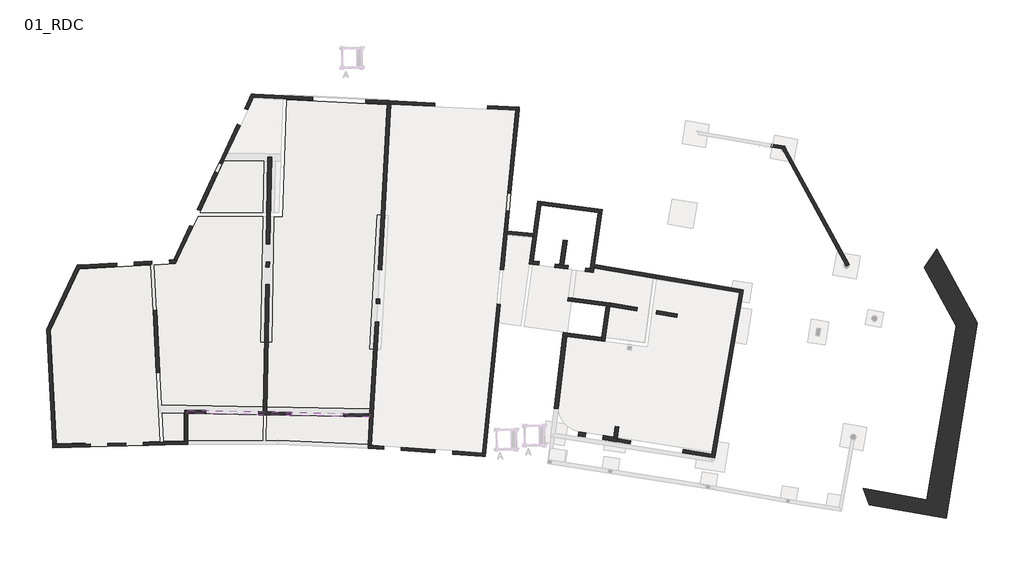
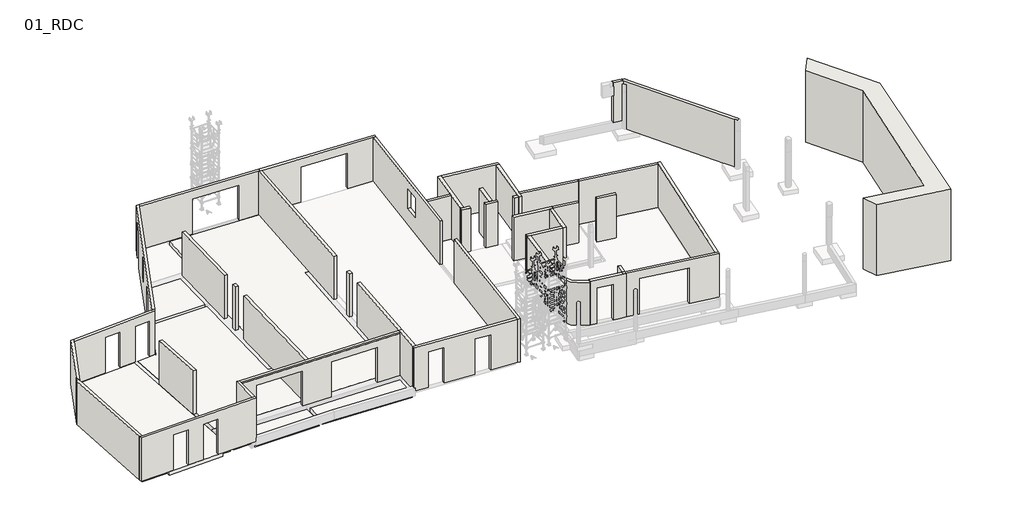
# One storey, part 1 of 5: 46 walls, 7 slabs.
"""IFC4 building model written with IfcOpenShell, lengths in millimetres."""

from ifc_helpers import new_model, si_unit, point, frame, frame_2d, origin, place, context, project, spatial, polyline, circle_curve, trimmed, segment, composite_curve, outline, extrude, faceted_brep, transform, mapped, element, save
from components import wall_40f25151

model = new_model("IFC4")

# Units and contexts
model_context = context("Model", 3, world=origin())
ifc_project = project(units=[si_unit("LENGTHUNIT", "METRE", prefix="MILLI")], contexts=[model_context])

# Site, building, storey
site = spatial("IfcSite", under=ifc_project)
building = spatial("IfcBuilding", under=site)
storey = spatial("IfcBuildingStorey", under=building, Name="01_RDC", Elevation=21740.0)

# Slabs
placement = place(None, origin())
element("IfcSlab", 1, ObjectType="Dalle Béton - 23 cm", at=placement, inside=storey, context=model_context, shape_type="Brep", body=[
    faceted_brep([(-17436.4309501, 5074.066281, 21510.0), (-15952.1811368, 8207.2510334, 21510.0), (-12342.5024034, 8399.4507711, 21510.0), (-12043.8235448, 2768.8227369, 21510.0), (-11865.4924723, -593.0353519, 21510.0), (-12434.6659303, -606.4517871, 21510.0), (-12434.6659303, -806.4517871, 21510.0), (-15631.9528179, -888.3045539, 21510.0), (-15634.5043727, -681.5463013, 21510.0), (-17129.5674373, -716.4448665, 21510.0), (-17436.4309501, 5074.066281, 21740.0), (-17129.5674373, -716.4448665, 21740.0), (-15634.5043727, -681.5463013, 21740.0), (-15631.9528179, -888.3045539, 21740.0), (-12434.6659303, -806.4517871, 21740.0), (-12434.6659303, -606.4517871, 21740.0), (-11865.4924723, -593.0353519, 21740.0), (-12043.8235448, 2768.8227369, 21740.0), (-12142.8481903, 4635.6135361, 21740.0), (-12342.5024034, 8399.4507711, 21740.0), (-15952.1811368, 8207.2510334, 21740.0)], [[[0, 1, 2, 3, 4, 5, 6, 7, 8, 9]], [[10, 11, 12, 13, 14, 15, 16, 17, 18, 19, 20]], [[1, 0, 10, 20]], [[2, 1, 20, 19]], [[3, 2, 19, 18, 17]], [[4, 3, 17, 16]], [[9, 8, 12, 11]], [[0, 9, 11, 10]], [[5, 4, 16, 15]], [[6, 5, 15, 14]], [[7, 6, 14, 13]], [[8, 7, 13, 12]]]),
])
element("IfcSlab", 2, ObjectType="Dalle Béton - 23 cm", at=placement, inside=storey, context=model_context, shape_type="SweptSolid", body=[
    extrude(outline(polyline([(-12137.970408, 8411.2607145), (-11037.8243067, 8470.1039382), (-9903.702453, 10886.8576195), (-6620.8426995, 10887.6283744), (-6739.1178792, 4451.1901105), (-6540.8572802, 4447.5468987), (-6561.7595181, 3310.0642565), (-6593.7287457, 1155.0462204), (-11763.6183828, 1261.865401), (-12137.970408, 8411.2607145)])), frame((0.0, 0.0, 21510.0), z_axis=(0.0, 0.0, 1.0), x_axis=(1.0, 0.0, 0.0)), (0.0, 0.0, 1.0), 230.0),
])
element("IfcSlab", 3, ObjectType="Dalle Béton - 23 cm", at=placement, inside=storey, context=model_context, shape_type="Brep", body=[
    faceted_brep([(-6617.5247761, 11087.6283744, 21510.0), (-9809.4857712, 11087.6283744, 21510.0), (-8588.1128852, 13690.3093904, 21510.0), (-8569.8513591, 13729.2237364, 21510.0), (-8568.9522219, 13731.1397503, 21510.0), (-6567.7631278, 13692.9165437, 21510.0), (-6567.7757638, 13692.2549806, 21510.0), (-6617.5247761, 11087.6283744, 21740.0), (-6567.7631278, 13692.9165437, 21740.0), (-8568.9522219, 13731.1397503, 21740.0), (-9809.4857712, 11087.6283744, 21740.0)], [[[0, 1, 2, 3, 4, 5, 6]], [[7, 8, 9, 10]], [[1, 0, 7, 10]], [[4, 3, 2, 1, 10, 9]], [[5, 4, 9, 8]], [[0, 6, 5, 8, 7]]]),
])
element("IfcSlab", 4, ObjectType="Dalle Béton - 23 cm", at=placement, inside=storey, context=model_context, shape_type="Brep", body=[
    faceted_brep([(-1152.2939669, 1049.221078, 21510.0), (-6393.4570934, 1151.8154178, 21510.0), (-6338.7149858, 4443.4273195, 21510.0), (-6139.2229057, 4440.1096085, 21510.0), (-6031.2282853, 10838.9168482, 21510.0), (-5605.2921157, 10887.6283744, 21510.0), (-5382.0144448, 16836.7210089, 21510.0), (-284.1944913, 16589.6977326, 21510.0), (-286.9832581, 16539.7740014, 21510.0), (-598.3078239, 10966.5277516, 21510.0), (-797.9886826, 10977.8225547, 21510.0), (-1181.1908141, 4117.8440084, 21510.0), (-981.5021302, 4106.68929, 21510.0), (-1152.2939669, 1049.221078, 21740.0), (-981.5021302, 4106.68929, 21740.0), (-1181.1908141, 4117.8440084, 21740.0), (-797.9886826, 10977.8225547, 21740.0), (-598.3078239, 10966.5277516, 21740.0), (-284.1944913, 16589.6977326, 21740.0), (-5382.0144448, 16836.7210089, 21740.0), (-5605.2921157, 10887.6283744, 21740.0), (-6031.2282853, 10838.9168482, 21740.0), (-6139.2229057, 4440.1096085, 21740.0), (-6338.7149858, 4443.4273195, 21740.0), (-6393.4570934, 1151.8154178, 21740.0)], [[[0, 1, 2, 3, 4, 5, 6, 7, 8, 9, 10, 11, 12]], [[13, 14, 15, 16, 17, 18, 19, 20, 21, 22, 23, 24]], [[1, 0, 13, 24]], [[2, 1, 24, 23]], [[3, 2, 23, 22]], [[4, 3, 22, 21]], [[5, 4, 21, 20]], [[6, 5, 20, 19]], [[7, 6, 19, 18]], [[9, 8, 7, 18, 17]], [[10, 9, 17, 16]], [[11, 10, 16, 15]], [[12, 11, 15, 14]], [[0, 12, 14, 13]]]),
])
element("IfcSlab", 5, ObjectType="Dalle Béton - 23 cm", at=placement, inside=storey, context=model_context, shape_type="Brep", body=[
    faceted_brep([(-6600.9720099, 755.1104576, 21240.0), (-6625.1436627, -553.4452067, 21240.0), (-10432.539406, -553.4452067, 21240.0), (-10432.539406, 834.6096983, 21240.0), (-6600.9720099, 755.1104576, 21470.0), (-10432.539406, 834.6096983, 21470.0), (-10432.539406, -553.4452067, 21470.0), (-7946.7003599, -553.4452067, 21470.0), (-6625.1436627, -553.4452067, 21470.0), (-6625.0448231, -548.0944323, 21470.0), (-6625.1436627, -553.4452067, 21440.0)], [[[0, 1, 2, 3]], [[4, 5, 6, 7, 8, 9]], [[1, 0, 4, 9, 8, 10]], [[2, 1, 10, 8, 7, 6]], [[3, 2, 6, 5]], [[0, 3, 5, 4]]]),
])
element("IfcSlab", 6, ObjectType="Dalle Béton - 23 cm", at=placement, inside=storey, context=model_context, shape_type="SweptSolid", body=[
    extrude(outline(polyline([(-10639.8183823, 838.7515281), (-10639.8183823, -564.2557968), (-11665.4605325, -588.3366601), (-11742.3721644, 861.5844784), (-10639.8183823, 838.7515281)])), frame((0.0, 0.0, 21510.0), z_axis=(0.0, 0.0, 1.0), x_axis=(1.0, 0.0, 0.0)), (0.0, 0.0, 1.0), 230.0),
])
element("IfcSlab", 7, ObjectType="Dalle Béton - 23 cm", at=placement, inside=storey, context=model_context, shape_type="SweptSolid", body=[
    extrude(outline(polyline([(-1174.5943601, 650.0056083), (-1241.99449, -744.424305), (-5847.0704297, -544.9447723), (-6431.103713, -547.3104622), (-6405.7725309, 751.9925402), (-1174.5943601, 650.0056083)])), frame((0.0, 0.0, 21240.0), z_axis=(0.0, 0.0, 1.0), x_axis=(1.0, 0.0, 0.0)), (0.0, 0.0, 1.0), 230.0),
])

# Walls
element("IfcWall", 8, ObjectType="premur 16", at=placement, inside=storey, context=model_context, shape_type="Brep", body=[
    faceted_brep([(-17167.4464085, -757.5277977, 21740.0), (-17476.2392068, 5069.3889465, 21740.0), (-17494.0520225, 5405.5165831, 21740.0), (-17494.0520225, 5405.5165831, 24440.0), (-17476.2392068, 5069.3889465, 24440.0), (-17167.4464085, -757.5277977, 24440.0), (-17327.4718116, -761.2850047, 21740.0), (-17327.4718116, -761.2850047, 24440.0), (-17638.1560951, 5101.3240442, 24440.0), (-17638.1560951, 5101.3240442, 21740.0)], [[[0, 1, 2, 3, 4, 5]], [[6, 7, 8, 9]], [[2, 1, 0, 6, 9]], [[5, 4, 3, 8, 7]], [[0, 5, 7, 6]], [[3, 2, 9, 8]]]),
])
element("IfcWall", 9, ObjectType="premur 16", at=placement, inside=storey, context=model_context, shape_type="Brep", body=[
    faceted_brep([(-17476.2392068, 5069.3889465, 21740.0), (-15971.2579455, 8246.287853, 21740.0), (-15893.3800838, 8410.6819886, 21740.0), (-15893.3800838, 8410.6819886, 24440.0), (-15971.2579455, 8246.287853, 24440.0), (-17476.2392068, 5069.3889465, 24440.0), (-17494.0520225, 5405.5165831, 21740.0), (-17494.0520225, 5405.5165831, 24440.0), (-16075.0280874, 8400.9662298, 24440.0), (-16075.0280874, 8400.9662298, 21740.0)], [[[0, 1, 2, 3, 4, 5]], [[6, 7, 8, 9]], [[2, 1, 0, 6, 9]], [[5, 4, 3, 8, 7]], [[0, 5, 7, 6]], [[3, 2, 9, 8]]]),
])
element("IfcWall", 10, ObjectType="premur 18", at=placement, inside=storey, context=model_context, shape_type="Brep", body=[
    faceted_brep([(8933.7672096, 6574.2312065, 21740.0), (11074.7713469, 6282.5765648, 21740.0), (11074.7713469, 6282.5765648, 24440.0), (9172.3359866, 6541.7325813, 24440.0), (8974.1662317, 6568.7279186, 24440.0), (8933.7672096, 6574.2312065, 24440.0), (8958.0630132, 6752.583986, 21740.0), (8958.0630132, 6752.583986, 24440.0), (11099.067253, 6460.9293303, 24440.0), (11099.067253, 6460.9293303, 21740.0)], [[[0, 1, 2, 3, 4, 5]], [[6, 7, 8, 9]], [[1, 0, 6, 9]], [[5, 4, 3, 2, 8, 7]], [[0, 5, 7, 6]], [[2, 1, 9, 8]]]),
])
element("IfcWall", 11, ObjectType="premur 18", at=placement, inside=storey, context=model_context, shape_type="SweptSolid", body=[
    extrude(outline(polyline([(10653.4611247, 4523.356596), (10896.4185675, 6306.8723684), (11074.7713469, 6282.5765648), (10831.8139042, 4499.0607924), (10653.4611247, 4523.356596)])), frame((0.0, 0.0, 21740.0), z_axis=(0.0, 0.0, 1.0), x_axis=(1.0, 0.0, 0.0)), (0.0, 0.0, 1.0), 2700.0),
])
element("IfcWall", 12, ObjectType="premur 18", at=placement, inside=storey, context=model_context, shape_type="Brep", body=[
    faceted_brep([(10677.7570309, 4701.7093614, 21740.0), (8713.0303105, 4969.3509123, 21740.0), (8713.0303105, 4969.3509123, 24440.0), (10677.7570309, 4701.7093614, 24440.0), (10653.4611247, 4523.356596, 21740.0), (10653.4611247, 4523.356596, 24440.0), (8889.7813861, 4763.6108642, 24440.0), (8691.5863, 4790.6096522, 24440.0), (8691.5863, 4790.6096522, 21740.0), (8889.7813861, 4763.6108642, 21740.0)], [[[0, 1, 2, 3]], [[4, 5, 6, 7, 8, 9]], [[1, 0, 4, 9, 8]], [[3, 2, 7, 6, 5]], [[0, 3, 5, 4]], [[2, 1, 8, 7]]]),
])
wall_shape = wall_40f25151(model_context)
element("IfcWall", 13, ObjectType="Murs 1 : Murs 1", at=placement, inside=storey, context=model_context, shape_type="MappedRepresentation", body=[
    mapped(wall_shape, transform((0.0, 0.0, 0.0), x_axis=(1.0, 0.0, 0.0), y_axis=(0.0, 1.0, 0.0), z_axis=(0.0, 0.0, 1.0))),
])
element("IfcWall", 14, ObjectType="Voile BA 16", at=placement, inside=storey, context=model_context, shape_type="Brep", body=[
    faceted_brep([(-17327.4718116, -761.2850047, 24440.0), (-17167.4464085, -757.5277977, 24440.0), (-10592.539406, -603.156766, 24440.0), (-10432.539406, -599.4001554, 24440.0), (-10432.539406, -599.4001554, 21740.0), (-10592.539406, -603.156766, 21740.0), (-12712.1578149, -652.9228966, 21740.0), (-12712.1578149, -652.9228966, 23940.0), (-13611.9098528, -674.0480091, 23940.0), (-13611.9098528, -674.0480091, 21740.0), (-14511.6618906, -695.1731217, 21740.0), (-14511.6618906, -695.1731217, 23940.0), (-15411.4139285, -716.2982342, 23940.0), (-15411.4139285, -716.2982342, 21740.0), (-17167.4464085, -757.5277977, 21740.0), (-17327.4718116, -761.2850047, 21740.0), (-10432.539406, -759.4442497, 24440.0), (-17319.0009425, -921.1302131, 24440.0), (-17319.0009425, -921.1302131, 21740.0), (-15407.6583529, -876.2541521, 21740.0), (-15407.6583529, -876.2541521, 23940.0), (-14507.9063151, -855.1290395, 23940.0), (-14507.9063151, -855.1290395, 21740.0), (-13608.1542772, -834.003927, 21740.0), (-13608.1542772, -834.003927, 23940.0), (-12708.4022393, -812.8788144, 23940.0), (-12708.4022393, -812.8788144, 21740.0), (-10432.539406, -759.4442497, 21740.0)], [[[0, 1, 2, 3, 4, 5, 6, 7, 8, 9, 10, 11, 12, 13, 14, 15]], [[16, 17, 18, 19, 20, 21, 22, 23, 24, 25, 26, 27]], [[18, 15, 14, 13, 19]], [[4, 27, 26, 6, 5]], [[9, 23, 22, 10]], [[3, 2, 1, 0, 17, 16]], [[0, 15, 18, 17]], [[4, 3, 16, 27]], [[25, 7, 6, 26]], [[7, 25, 24, 8]], [[8, 24, 23, 9]], [[21, 11, 10, 22]], [[11, 21, 20, 12]], [[12, 20, 19, 13]]]),
])
element("IfcWall", 15, ObjectType="Voile BA 16", at=placement, inside=storey, context=model_context, shape_type="Brep", body=[
    faceted_brep([(-11056.9990051, 8509.135522, 24440.0), (-15971.2579455, 8246.287853, 24440.0), (-15971.2579455, 8246.287853, 21740.0), (-14061.8955467, 8348.4134149, 21740.0), (-14061.8955467, 8348.4134149, 23940.0), (-13163.1801649, 8396.482767, 23940.0), (-13163.1801649, 8396.482767, 21740.0), (-12264.4647908, 8444.5521187, 21740.0), (-12264.4647908, 8444.5521187, 23940.0), (-11365.7494091, 8492.6214707, 23940.0), (-11365.7494091, 8492.6214707, 21740.0), (-11056.9990051, 8509.135522, 21740.0), (-15893.3800838, 8410.6819886, 24440.0), (-11161.1638648, 8663.7927867, 24440.0), (-10979.8718044, 8673.4895072, 24440.0), (-10979.8718044, 8673.4895072, 21740.0), (-11161.1638648, 8663.7927867, 21740.0), (-11374.2950717, 8652.3930942, 21740.0), (-11374.2950717, 8652.3930942, 23940.0), (-12273.0104534, 8604.3237421, 23940.0), (-12273.0104534, 8604.3237421, 21740.0), (-13171.7258275, 8556.2543904, 21740.0), (-13171.7258275, 8556.2543904, 23940.0), (-14070.4412093, 8508.1850383, 23940.0), (-14070.4412093, 8508.1850383, 21740.0), (-15893.3800838, 8410.6819886, 21740.0)], [[[0, 1, 2, 3, 4, 5, 6, 7, 8, 9, 10, 11]], [[12, 13, 14, 15, 16, 17, 18, 19, 20, 21, 22, 23, 24, 25]], [[2, 25, 24, 3]], [[15, 11, 10, 17, 16]], [[6, 21, 20, 7]], [[1, 0, 14, 13, 12]], [[2, 1, 12, 25]], [[0, 11, 15, 14]], [[23, 4, 3, 24]], [[4, 23, 22, 5]], [[5, 22, 21, 6]], [[19, 8, 7, 20]], [[8, 19, 18, 9]], [[9, 18, 17, 10]]]),
])
element("IfcWall", 16, ObjectType="Voile BA 16", at=placement, inside=storey, context=model_context, shape_type="Brep", body=[
    faceted_brep([(-7017.7972941, 17116.4607161, 24440.0), (-7091.2969327, 16959.8368739, 24440.0), (-10979.8718044, 8673.4895072, 24440.0), (-10979.8718044, 8673.4895072, 21740.0), (-10188.3563169, 10360.1671441, 21740.0), (-10188.3563169, 10360.1671441, 23940.0), (-9806.0152396, 11174.915756, 23940.0), (-9806.0152396, 11174.915756, 21740.0), (-7771.1110616, 15511.1889238, 21740.0), (-7771.1110616, 15511.1889238, 23940.0), (-7388.7699843, 16325.9375357, 23940.0), (-7388.7699843, 16325.9375357, 21740.0), (-7091.2969327, 16959.8368739, 21740.0), (-7017.7972941, 17116.4607161, 21740.0), (-8905.3895909, 13094.1013752, 22740.0), (-8905.3895909, 13094.1013752, 23940.0), (-8692.9778813, 13546.7394929, 23940.0), (-8692.9778813, 13546.7394929, 22740.0), (-11161.1638648, 8663.7927867, 24440.0), (-7190.6064426, 17124.8406321, 24440.0), (-7190.6064426, 17124.8406321, 21740.0), (-7533.6141819, 16393.9092828, 21740.0), (-7533.6141819, 16393.9092828, 23940.0), (-7915.9552592, 15579.1606709, 23940.0), (-7915.9552592, 15579.1606709, 21740.0), (-9950.8594373, 11242.8875031, 21740.0), (-9950.8594373, 11242.8875031, 23940.0), (-10333.2005146, 10428.1388911, 23940.0), (-10333.2005146, 10428.1388911, 21740.0), (-11161.1638648, 8663.7927867, 21740.0), (-9050.2337885, 13162.0731222, 23940.0), (-9050.2337885, 13162.0731222, 22740.0), (-8837.8220789, 13614.71124, 22740.0), (-8837.8220789, 13614.71124, 23940.0)], [[[0, 1, 2, 3, 4, 5, 6, 7, 8, 9, 10, 11, 12, 13], [14, 15, 16, 17]], [[18, 19, 20, 21, 22, 23, 24, 25, 26, 27, 28, 29], [30, 31, 32, 33]], [[3, 29, 28, 4]], [[20, 13, 12, 11, 21]], [[7, 25, 24, 8]], [[2, 1, 0, 19, 18]], [[3, 2, 18, 29]], [[0, 13, 20, 19]], [[27, 5, 4, 28]], [[5, 27, 26, 6]], [[6, 26, 25, 7]], [[14, 31, 30, 15]], [[15, 30, 33, 16]], [[16, 33, 32, 17]], [[31, 14, 17, 32]], [[23, 9, 8, 24]], [[9, 23, 22, 10]], [[10, 22, 21, 11]]]),
])
element("IfcWall", 17, ObjectType="Voile BA 16", at=placement, inside=storey, context=model_context, shape_type="Brep", body=[
    faceted_brep([(-173.2094346, 16624.3627808, 21740.0), (-173.2094346, 16624.3627808, 24440.0), (-263.6934059, 16628.7505582, 24440.0), (-7091.2969327, 16959.8368739, 24440.0), (-7091.2969327, 16959.8368739, 21740.0), (-4062.8050329, 16812.9782842, 21740.0), (-4062.8050329, 16812.9782842, 23940.0), (-1365.9739767, 16682.2026973, 23940.0), (-1365.9739767, 16682.2026973, 21740.0), (-263.6934059, 16628.7505582, 21740.0), (-165.4597702, 16784.1749915, 24440.0), (-165.4597702, 16784.1749915, 21740.0), (-1358.2243123, 16842.014908, 21740.0), (-1358.2243123, 16842.014908, 23940.0), (-4055.0553685, 16972.7904949, 23940.0), (-4055.0553685, 16972.7904949, 21740.0), (-7017.7972941, 17116.4607161, 21740.0), (-7017.7972941, 17116.4607161, 24440.0)], [[[0, 1, 2, 3, 4, 5, 6, 7, 8, 9]], [[10, 11, 12, 13, 14, 15, 16, 17]], [[11, 0, 9, 8, 12]], [[4, 16, 15, 5]], [[1, 0, 11, 10]], [[3, 2, 1, 10, 17]], [[4, 3, 17, 16]], [[14, 6, 5, 15]], [[6, 14, 13, 7]], [[7, 13, 12, 8]]]),
])
element("IfcWall", 18, ObjectType="Voile BA 16", at=placement, inside=storey, context=model_context, shape_type="Brep", body=[
    faceted_brep([(6453.3490184, 16302.7745572, 24440.0), (-83.9138007, 16619.7815792, 24440.0), (-173.2234205, 16624.1124096, 24440.0), (-173.2234205, 16624.1124096, 21740.0), (-83.9138007, 16619.7815792, 21740.0), (2144.1395071, 16511.7381116, 21740.0), (2144.1395071, 16511.7381116, 23940.0), (4840.9705633, 16380.9625246, 23940.0), (4840.9705633, 16380.9625246, 21740.0), (6453.3490184, 16302.7745572, 21740.0), (-165.4737561, 16783.9246204, 24440.0), (6468.8218747, 16462.2122525, 24440.0), (6468.8218747, 16462.2122525, 21740.0), (4848.7202277, 16540.7747354, 21740.0), (4848.7202277, 16540.7747354, 23940.0), (2151.8891715, 16671.5503223, 23940.0), (2151.8891715, 16671.5503223, 21740.0), (-165.4737561, 16783.9246204, 21740.0)], [[[0, 1, 2, 3, 4, 5, 6, 7, 8, 9]], [[10, 11, 12, 13, 14, 15, 16, 17]], [[3, 17, 16, 5, 4]], [[12, 9, 8, 13]], [[2, 1, 0, 11, 10]], [[3, 2, 10, 17]], [[0, 9, 12, 11]], [[15, 6, 5, 16]], [[6, 15, 14, 7]], [[7, 14, 13, 8]]]),
])
element("IfcWall", 19, ObjectType="Voile BA 16", at=placement, inside=storey, context=model_context, shape_type="Brep", body=[
    faceted_brep([(6293.3502984, 16310.5332659, 21740.0), (5504.2629798, 8179.5029725, 21740.0), (5504.2629798, 8179.5029725, 24440.0), (6293.3502984, 16310.5332659, 24440.0), (5882.6859002, 12078.9044159, 22740.0), (5882.6859002, 12078.9044159, 23940.0), (5795.7525392, 11183.1128159, 23940.0), (5795.7525392, 11183.1128159, 22740.0), (5663.5148198, 8164.0481528, 21740.0), (6453.3490184, 16302.7745572, 21740.0), (6453.3490184, 16302.7745572, 24440.0), (5663.5148198, 8164.0481528, 24440.0), (6041.9377402, 12063.4495962, 23940.0), (6041.9377402, 12063.4495962, 22740.0), (5955.0043792, 11167.6579961, 22740.0), (5955.0043792, 11167.6579961, 23940.0)], [[[0, 1, 2, 3], [4, 5, 6, 7]], [[8, 9, 10, 11], [12, 13, 14, 15]], [[1, 0, 9, 8]], [[2, 1, 8, 11]], [[3, 2, 11, 10]], [[0, 3, 10, 9]], [[4, 13, 12, 5]], [[5, 12, 15, 6]], [[6, 15, 14, 7]], [[13, 4, 7, 14]]]),
])
element("IfcWall", 20, ObjectType="Voile BA 16", at=placement, inside=storey, context=model_context, shape_type="Brep", body=[
    faceted_brep([(-1237.7241115, -781.9400352, 24440.0), (4593.7886699, -1202.3411157, 24440.0), (4593.7886699, -1202.3411157, 21740.0), (3073.0729638, -1092.7108105, 21740.0), (3073.0729638, -1092.7108105, 23940.0), (2175.4026042, -1027.9966269, 23940.0), (2175.4026042, -1027.9966269, 21740.0), (459.854806, -904.3206314, 21740.0), (459.854806, -904.3206314, 23940.0), (-437.8155536, -839.6064478, 23940.0), (-437.8155536, -839.6064478, 21740.0), (-1237.7241115, -781.9400352, 21740.0), (4578.3291052, -1361.6418494, 24440.0), (-1246.6490524, -941.7118581, 24440.0), (-1246.6490524, -941.7118581, 21940.0), (-1246.6490524, -941.7118581, 21740.0), (-1191.8938423, -945.65923, 21740.0), (-449.3202974, -999.1922895, 21740.0), (-449.3202974, -999.1922895, 23940.0), (448.3500622, -1063.9064731, 23940.0), (448.3500622, -1063.9064731, 21740.0), (2163.8978605, -1187.5824686, 21740.0), (2163.8978605, -1187.5824686, 23940.0), (3061.56822, -1252.2966522, 23940.0), (3061.56822, -1252.2966522, 21740.0), (4578.3291052, -1361.6418494, 21740.0)], [[[0, 1, 2, 3, 4, 5, 6, 7, 8, 9, 10, 11]], [[12, 13, 14, 15, 16, 17, 18, 19, 20, 21, 22, 23, 24, 25]], [[2, 25, 24, 3]], [[6, 21, 20, 7]], [[15, 11, 10, 17, 16]], [[1, 0, 13, 12]], [[2, 1, 12, 25]], [[23, 4, 3, 24]], [[4, 23, 22, 5]], [[5, 22, 21, 6]], [[19, 8, 7, 20]], [[8, 19, 18, 9]], [[9, 18, 17, 10]], [[0, 11, 15, 14, 13]]]),
])
element("IfcWall", 21, ObjectType="Voile BA 16", at=placement, inside=storey, context=model_context, shape_type="Brep", body=[
    faceted_brep([(-1078.1174191, -793.4462821, 21740.0), (-988.8977017, 803.7404156, 21740.0), (-988.8977017, 803.7404156, 24440.0), (-1078.1174191, -793.4462821, 24440.0), (-1237.7241115, -781.9400352, 21740.0), (-1237.7241115, -781.9400352, 24440.0), (-1157.8907526, 647.2146701, 24440.0), (-1148.9612613, 807.0679529, 24440.0), (-1148.6486524, 812.6641906, 24440.0), (-1148.6486524, 812.6641906, 21740.0), (-1148.9612613, 807.0679529, 21740.0), (-1157.8907526, 647.2146701, 21740.0), (-1235.6438293, -744.6993986, 21740.0)], [[[0, 1, 2, 3]], [[4, 5, 6, 7, 8, 9, 10, 11, 12]], [[1, 0, 4, 12, 11, 10, 9]], [[2, 1, 9, 8]], [[3, 2, 8, 7, 6, 5]], [[0, 3, 5, 4]]]),
])
element("IfcWall", 22, ObjectType="Voile BA 16", at=placement, inside=storey, context=model_context, shape_type="Brep", body=[
    faceted_brep([(-10592.539406, 996.1443076, 24440.0), (-10592.539406, 996.1443076, 21740.0), (-10592.539406, -603.156766, 21740.0), (-10592.539406, -603.156766, 24440.0), (-10432.539406, 992.9408378, 21740.0), (-10432.539406, 992.9408378, 24345.0), (-10432.539406, 992.9408378, 24440.0), (-10432.539406, -599.4001554, 24440.0), (-10432.539406, -599.4001554, 21740.0), (-10432.539406, 832.9087716, 21740.0)], [[[0, 1, 2, 3]], [[4, 5, 6, 7, 8, 9]], [[2, 1, 4, 9, 8]], [[0, 3, 7, 6]], [[3, 2, 8, 7]], [[0, 6, 5, 4, 1]]]),
])
element("IfcWall", 23, ObjectType="Voile BA 16", at=placement, inside=storey, context=model_context, shape_type="SweptSolid", body=[
    extrude(outline(polyline([(7167.9272112, 9851.5647516), (5845.0321245, 9981.7209578), (5860.6984652, 10140.9521286), (7189.6570676, 10010.1993489), (7167.9272112, 9851.5647516)])), frame((0.0, 0.0, 21740.0), z_axis=(0.0, 0.0, 1.0), x_axis=(1.0, 0.0, 0.0)), (0.0, 0.0, 1.0), 2700.0),
])
element("IfcWall", 24, ObjectType="Voile BA 16", at=placement, inside=storey, context=model_context, shape_type="Brep", body=[
    faceted_brep([(16450.0385, -1289.1183842, 21740.0), (17879.4568483, 7132.5031308, 21740.0), (17879.4568483, 7132.5031308, 24440.0), (16450.0385, -1289.1183842, 24440.0), (16292.2306833, -1262.7206797, 21740.0), (16292.2306833, -1262.7206797, 24440.0), (17694.9387704, 7001.5335322, 24440.0), (17721.7129548, 7159.2774482, 24440.0), (17721.7129548, 7159.2774482, 21740.0), (17694.9387704, 7001.5335322, 21740.0)], [[[0, 1, 2, 3]], [[4, 5, 6, 7, 8, 9]], [[1, 0, 4, 9, 8]], [[3, 2, 7, 6, 5]], [[0, 3, 5, 4]], [[2, 1, 8, 7]]]),
])
element("IfcWall", 25, ObjectType="Voile BA 16", at=placement, inside=storey, context=model_context, shape_type="SweptSolid", body=[
    extrude(outline(polyline([(13459.1404807, 7882.7759374), (17721.7129548, 7159.2774482), (17694.9387704, 7001.5335322), (13432.3661633, 7725.0320439), (13459.1404807, 7882.7759374)])), frame((0.0, 0.0, 21740.0), z_axis=(0.0, 0.0, 1.0), x_axis=(1.0, 0.0, 0.0)), (0.0, 0.0, 1.0), 2700.0),
])
element("IfcWall", 26, ObjectType="Voile BA 16", at=placement, inside=storey, context=model_context, shape_type="Brep", body=[
    faceted_brep([(5331.8579736, 6402.9818, 21740.0), (4593.7886699, -1202.3411157, 21740.0), (4578.3291052, -1361.6418494, 21740.0), (4578.3291052, -1361.6418494, 24440.0), (4593.7886699, -1202.3411157, 24440.0), (5331.8579736, 6402.9818, 24440.0), (5491.1098136, 6387.5269803, 21740.0), (5491.1098136, 6387.5269803, 24440.0), (4737.9639432, -1373.1501254, 24440.0), (4737.9639432, -1373.1501254, 21740.0)], [[[0, 1, 2, 3, 4, 5]], [[6, 7, 8, 9]], [[2, 1, 0, 6, 9]], [[5, 4, 3, 8, 7]], [[0, 5, 7, 6]], [[3, 2, 9, 8]]]),
])
element("IfcWall", 27, ObjectType="Voile BA 16", at=placement, inside=storey, context=model_context, shape_type="Brep", body=[
    faceted_brep([(19320.4222266, 14423.4267106, 21940.0), (19816.9051622, 14339.1578468, 21940.0), (19966.1687072, 14313.8231003, 21940.0), (19966.1687072, 14313.8231003, 24440.0), (19320.4222266, 14423.4267106, 24440.0), (19320.4222266, 14423.4267106, 21970.0), (19347.1963618, 14581.170635, 21940.0), (19347.1963618, 14581.170635, 21970.0), (19347.1963618, 14581.170635, 24440.0), (19992.9428425, 14471.5670247, 24440.0), (19992.9428425, 14471.5670247, 21940.0), (19991.2796527, 14471.8493206, 21940.0)], [[[0, 1, 2, 3, 4, 5]], [[6, 7, 8, 9, 10, 11]], [[2, 1, 0, 6, 11, 10]], [[3, 2, 10, 9]], [[4, 3, 9, 8]], [[0, 5, 4, 8, 7, 6]]]),
])
element("IfcWall", 28, ObjectType="Voile BA 16", at=placement, inside=storey, context=model_context, shape_type="Brep", body=[
    faceted_brep([(19841.9707276, 14383.1224753, 21470.0), (19956.965483, 14173.5513868, 21470.0), (23071.6904398, 8497.1507794, 21470.0), (23146.807998, 8360.2535063, 21470.0), (23146.807998, 8360.2535063, 23840.0), (23146.807998, 8360.2535063, 24440.0), (23071.6904398, 8497.1507794, 24440.0), (23045.3369678, 8545.1784115, 24440.0), (19871.0077552, 14330.204223, 24440.0), (19841.9707276, 14383.1224753, 24440.0), (19841.9707276, 14383.1224753, 23790.0), (19982.2413295, 14460.0910289, 21470.0), (19982.2413295, 14460.0910289, 23790.0), (19982.2413295, 14460.0910289, 24440.0), (20097.2360849, 14250.5199404, 24440.0), (23246.8050203, 8510.6182585, 24440.0), (23247.632001, 8509.1111355, 24440.0), (23275.5353981, 8458.2588572, 24440.0), (23287.0785998, 8437.2220599, 24440.0), (23287.0785998, 8437.2220599, 23840.0), (23287.0785998, 8437.2220599, 21470.0), (23275.5353981, 8458.2588572, 21470.0), (20097.2360849, 14250.5199404, 21470.0)], [[[0, 1, 2, 3, 4, 5, 6, 7, 8, 9, 10]], [[11, 12, 13, 14, 15, 16, 17, 18, 19, 20, 21, 22]], [[3, 2, 1, 0, 11, 22, 21, 20]], [[5, 4, 3, 20, 19, 18]], [[9, 8, 7, 6, 5, 18, 17, 16, 15, 14, 13]], [[0, 10, 9, 13, 12, 11]]]),
])
element("IfcWall", 29, ObjectType="Voile BA 16", at=placement, inside=storey, context=model_context, shape_type="Brep", body=[
    faceted_brep([(-10432.539406, 992.9408378, 24345.0), (-1148.9612613, 807.0679529, 24345.0), (-1148.9612613, 807.0679529, 21740.0), (-2493.621588, 833.9903195, 21740.0), (-2493.621588, 833.9903195, 23940.0), (-5173.0845865, 887.6376858, 23940.0), (-5173.0845865, 887.6376858, 21740.0), (-6407.3362432, 912.3494847, 21740.0), (-6587.3003919, 915.9526704, 21740.0), (-6822.1319794, 920.6543946, 21740.0), (-6822.1319794, 920.6543946, 23940.0), (-9521.5909704, 974.7021145, 23940.0), (-9521.5909704, 974.7021145, 21740.0), (-10432.539406, 992.9408378, 21740.0), (-1157.8907526, 647.2146701, 24345.0), (-10432.539406, 832.9087716, 24345.0), (-10432.539406, 832.9087716, 21740.0), (-9524.7937983, 814.7341743, 21740.0), (-9524.7937983, 814.7341743, 23940.0), (-6825.3348073, 760.6864544, 23940.0), (-6825.3348073, 760.6864544, 21740.0), (-5176.2874143, 727.6697456, 21740.0), (-5176.2874143, 727.6697456, 23940.0), (-2496.8244159, 674.0223793, 23940.0), (-2496.8244159, 674.0223793, 21740.0), (-1157.8907526, 647.2146701, 21740.0)], [[[0, 1, 2, 3, 4, 5, 6, 7, 8, 9, 10, 11, 12, 13]], [[14, 15, 16, 17, 18, 19, 20, 21, 22, 23, 24, 25]], [[16, 13, 12, 17]], [[2, 25, 24, 3]], [[20, 9, 8, 7, 6, 21]], [[1, 0, 15, 14]], [[2, 1, 14, 25]], [[0, 13, 16, 15]], [[10, 19, 18, 11]], [[19, 10, 9, 20]], [[11, 18, 17, 12]], [[4, 23, 22, 5]], [[23, 4, 3, 24]], [[5, 22, 21, 6]]]),
])
element("IfcWall", 30, ObjectType="Voile BA 16", at=placement, inside=storey, context=model_context, shape_type="SweptSolid", body=[
    extrude(outline(polyline([(-10432.539406, 992.9408378), (-1148.9612613, 807.0679529), (-1157.8907526, 647.2146701), (-10432.539406, 832.9087716), (-10432.539406, 992.9408378)])), frame((0.0, 0.0, 24345.0), z_axis=(0.0, 0.0, 1.0), x_axis=(1.0, 0.0, 0.0)), (0.0, 0.0, 1.0), 95.0),
])
element("IfcWall", 31, ObjectType="Voile BA 16", at=placement, inside=storey, context=model_context, shape_type="Brep", body=[
    faceted_brep([(16423.2642393, -1446.8627495, 24440.0), (11243.3142105, -580.3734155, 24440.0), (11243.3142105, -580.3734155, 21740.0), (12127.4256414, -728.2654068, 21740.0), (12127.4256414, -728.2654068, 23940.0), (14790.4249642, -1173.725401, 23940.0), (14790.4249642, -1173.725401, 21740.0), (16423.2642393, -1446.8627495, 21740.0), (11269.7118398, -422.5660482, 24440.0), (16292.2306833, -1262.7206797, 24440.0), (16450.0385, -1289.1183842, 24440.0), (16450.0385, -1289.1183842, 21740.0), (16292.2306833, -1262.7206797, 21740.0), (14816.8225935, -1015.9180337, 21740.0), (14816.8225935, -1015.9180337, 23940.0), (12153.8232707, -570.4580396, 23940.0), (12153.8232707, -570.4580396, 21740.0), (11269.7118398, -422.5660482, 21740.0)], [[[0, 1, 2, 3, 4, 5, 6, 7]], [[8, 9, 10, 11, 12, 13, 14, 15, 16, 17]], [[2, 17, 16, 3]], [[11, 7, 6, 13, 12]], [[1, 0, 10, 9, 8]], [[2, 1, 8, 17]], [[0, 7, 11, 10]], [[5, 14, 13, 6]], [[14, 5, 4, 15]], [[15, 4, 3, 16]]]),
])
element("IfcWall", 32, ObjectType="Voile BA 16", at=placement, inside=storey, context=model_context, shape_type="SweptSolid", body=[
    extrude(outline(polyline([(10304.2626115, 8418.2622865), (13459.1404807, 7882.7759374), (13432.3661633, 7725.0320439), (10282.6620265, 8259.6402408), (10304.2626115, 8418.2622865)])), frame((0.0, 0.0, 21740.0), z_axis=(0.0, 0.0, 1.0), x_axis=(1.0, 0.0, 0.0)), (0.0, 0.0, 1.0), 2700.0),
])
element("IfcWall", 33, ObjectType="Voile BA 18", at=placement, inside=storey, context=model_context, shape_type="SweptSolid", body=[
    extrude(outline(polyline([(-12034.1270159, 2904.3074446), (-12203.312628, 6093.7573284), (-12023.565338, 6103.2920935), (-11854.3797259, 2913.8422097), (-12034.1270159, 2904.3074446)])), frame((0.0, 0.0, 21740.0), z_axis=(0.0, 0.0, 1.0), x_axis=(1.0, 0.0, 0.0)), (0.0, 0.0, 1.0), 2700.0),
])
element("IfcWall", 34, ObjectType="Voile BA 18", at=placement, inside=storey, context=model_context, shape_type="SweptSolid", body=[
    extrude(outline(polyline([(-6287.4751021, 7401.1479405), (-6407.3362432, 912.3494847), (-6587.3003919, 915.9526704), (-6467.4444006, 7404.4723349), (-6287.4751021, 7401.1479405)])), frame((0.0, 0.0, 21740.0), z_axis=(0.0, 0.0, 1.0), x_axis=(1.0, 0.0, 0.0)), (0.0, 0.0, 1.0), 2700.0),
])
element("IfcWall", 35, ObjectType="Voile BA 18", at=placement, inside=storey, context=model_context, shape_type="SweptSolid", body=[
    extrude(outline(polyline([(-83.9138007, 16619.7815792), (-556.6882353, 8156.3044421), (-736.4080548, 8166.343689), (-263.6934059, 16628.7505582), (-173.2094346, 16624.3627808), (-173.2234205, 16624.1124096), (-83.9138007, 16619.7815792)])), frame((0.0, 0.0, 21740.0), z_axis=(0.0, 0.0, 1.0), x_axis=(1.0, 0.0, 0.0)), (0.0, 0.0, 1.0), 2700.0),
])
element("IfcWall", 36, ObjectType="Voile BA 18", at=placement, inside=storey, context=model_context, shape_type="Brep", body=[
    faceted_brep([(7180.3106962, 8615.641979, 21740.0), (7571.2751706, 11469.8021988, 21740.0), (7595.7035539, 11648.1368676, 21740.0), (7595.7035539, 11648.1368676, 24440.0), (7571.2751706, 11469.8021988, 24440.0), (7180.3106962, 8615.641979, 24440.0), (7001.9776841, 8640.0824568, 21740.0), (7001.9776841, 8640.0824568, 24440.0), (7167.9272112, 9851.5647516, 24440.0), (7189.6570676, 10010.1993489, 24440.0), (7417.3688743, 11672.5651716, 24440.0), (7417.3688743, 11672.5651716, 21740.0), (7189.6570676, 10010.1993489, 21740.0), (7167.9272112, 9851.5647516, 21740.0)], [[[0, 1, 2, 3, 4, 5]], [[6, 7, 8, 9, 10, 11, 12, 13]], [[2, 1, 0, 6, 13, 12, 11]], [[5, 4, 3, 10, 9, 8, 7]], [[3, 2, 11, 10]], [[0, 5, 7, 6]]]),
])
element("IfcWall", 37, ObjectType="Voile BA 18", at=placement, inside=storey, context=model_context, shape_type="SweptSolid", body=[
    extrude(outline(polyline([(10662.1548325, 11046.4131628), (7571.2751706, 11469.8021988), (7595.7035539, 11648.1368676), (10686.4424382, 11224.7671153), (10662.1548325, 11046.4131628)])), frame((0.0, 0.0, 21740.0), z_axis=(0.0, 0.0, 1.0), x_axis=(1.0, 0.0, 0.0)), (0.0, 0.0, 1.0), 2700.0),
])
element("IfcWall", 38, ObjectType="Voile BA 18", at=placement, inside=storey, context=model_context, shape_type="Brep", body=[
    faceted_brep([(10483.8200974, 11070.8414744, 21740.0), (10071.0969437, 8040.0443399, 21740.0), (10071.0969437, 8040.0443399, 24440.0), (10483.8200974, 11070.8414744, 24440.0), (10662.1548325, 11046.4131628, 21740.0), (10662.1548325, 11046.4131628, 24440.0), (10304.2626115, 8418.2622865, 24440.0), (10282.6620265, 8259.6402408, 24440.0), (10249.4508407, 8015.7567418, 24440.0), (10249.4508407, 8015.7567418, 21740.0), (10282.6620265, 8259.6402408, 21740.0), (10304.2626115, 8418.2622865, 21740.0)], [[[0, 1, 2, 3]], [[4, 5, 6, 7, 8, 9, 10, 11]], [[1, 0, 4, 11, 10, 9]], [[2, 1, 9, 8]], [[3, 2, 8, 7, 6, 5]], [[0, 3, 5, 4]]]),
])
element("IfcWall", 39, ObjectType="Voile BA 18", at=placement, inside=storey, context=model_context, shape_type="Brep", body=[
    faceted_brep([(8281.090836, 8283.8969474, 21740.0), (8944.2485755, 8193.5581617, 21740.0), (8944.2485755, 8193.5581617, 24440.0), (8281.090836, 8283.8969474, 24440.0), (8305.3869702, 8462.2496817, 21740.0), (8305.3869702, 8462.2496817, 23790.0), (8305.3869702, 8462.2496817, 24240.0), (8305.3869702, 8462.2496817, 24440.0), (8369.0528573, 8453.5767845, 24440.0), (8968.5447098, 8371.9108961, 24440.0), (8968.5447098, 8371.9108961, 21740.0)], [[[0, 1, 2, 3]], [[4, 5, 6, 7, 8, 9, 10]], [[1, 0, 4, 10]], [[2, 1, 10, 9]], [[3, 2, 9, 8, 7]], [[0, 3, 7, 6, 5, 4]]]),
])
element("IfcWall", 40, ObjectType="Voile BA 18", at=placement, inside=storey, context=model_context, shape_type="SweptSolid", body=[
    extrude(outline(polyline([(12463.5323239, 6053.4082931), (11089.3515509, 6280.1149296), (11118.6511559, 6457.7142909), (12492.8319289, 6231.0076544), (12463.5323239, 6053.4082931)])), frame((0.0, 0.0, 21740.0), z_axis=(0.0, 0.0, 1.0), x_axis=(1.0, 0.0, 0.0)), (0.0, 0.0, 1.0), 2700.0),
])
element("IfcWall", 41, ObjectType="Voile BA 18", at=placement, inside=storey, context=model_context, shape_type="SweptSolid", body=[
    extrude(outline(polyline([(14497.7111692, 5724.7084416), (13448.8093754, 5894.1977257), (13477.522659, 6071.8928223), (14526.4244528, 5902.4035382), (14497.7111692, 5724.7084416)])), frame((0.0, 0.0, 21740.0), z_axis=(0.0, 0.0, 1.0), x_axis=(1.0, 0.0, 0.0)), (0.0, 0.0, 1.0), 2700.0),
])
element("IfcWall", 42, ObjectType="Voile BA 18", at=placement, inside=storey, context=model_context, shape_type="Brep", body=[
    faceted_brep([(6977.5493007, 8461.7477876, 21740.0), (7452.9717015, 8396.5913116, 21740.0), (7452.9717015, 8396.5913116, 24440.0), (6977.5493007, 8461.7477876, 24440.0), (7001.9776841, 8640.0824568, 21740.0), (7001.9776841, 8640.0824568, 24440.0), (7180.3106962, 8615.641979, 24440.0), (7477.4121792, 8574.9243233, 24440.0), (7477.4121792, 8574.9243233, 21740.0), (7180.3106962, 8615.641979, 21740.0)], [[[0, 1, 2, 3]], [[4, 5, 6, 7, 8, 9]], [[1, 0, 4, 9, 8]], [[2, 1, 8, 7]], [[3, 2, 7, 6, 5]], [[0, 3, 5, 4]]]),
])
element("IfcWall", 43, ObjectType="Voile BA 18", at=placement, inside=storey, context=model_context, shape_type="SweptSolid", body=[
    extrude(outline(polyline([(-641.1766803, 6669.953308), (-655.2189546, 6418.5723985), (-834.9387741, 6428.6116453), (-820.8964998, 6679.9925548), (-641.1766803, 6669.953308)])), frame((0.0, 0.0, 21740.0), z_axis=(0.0, 0.0, 1.0), x_axis=(1.0, 0.0, 0.0)), (0.0, 0.0, 1.0), 2700.0),
])
element("IfcWall", 44, ObjectType="Voile BA 18", at=placement, inside=storey, context=model_context, shape_type="SweptSolid", body=[
    extrude(outline(polyline([(10071.0981061, 8040.052876), (9835.8512027, 8072.0994289), (9860.1473369, 8250.4521633), (10095.3857043, 8218.4067732), (10071.0981061, 8040.052876)])), frame((0.0, 0.0, 21740.0), z_axis=(0.0, 0.0, 1.0), x_axis=(1.0, 0.0, 0.0)), (0.0, 0.0, 1.0), 2700.0),
])
element("IfcWall", 45, ObjectType="Voile BA 18", at=placement, inside=storey, context=model_context, shape_type="SweptSolid", body=[
    extrude(outline(polyline([(-6167.4275253, 13900.0392751), (-6249.0598775, 9480.7931676), (-6429.029176, 9484.117562), (-6347.3968238, 13903.3636695), (-6167.4275253, 13900.0392751)])), frame((0.0, 0.0, 21740.0), z_axis=(0.0, 0.0, 1.0), x_axis=(1.0, 0.0, 0.0)), (0.0, 0.0, 1.0), 2700.0),
])
element("IfcWall", 46, ObjectType="Voile BA 18", at=placement, inside=storey, context=model_context, shape_type="SweptSolid", body=[
    extrude(outline(polyline([(-6266.2359154, 8550.951792), (-6270.8531299, 8300.994433), (-6450.8224284, 8304.3188274), (-6446.2052139, 8554.2761864), (-6266.2359154, 8550.951792)])), frame((0.0, 0.0, 21740.0), z_axis=(0.0, 0.0, 1.0), x_axis=(1.0, 0.0, 0.0)), (0.0, 0.0, 1.0), 2700.0),
])
element("IfcWall", 47, ObjectType="Voile BA 18", at=placement, inside=storey, context=model_context, shape_type="SweptSolid", body=[
    extrude(outline(polyline([(-706.6292371, 5498.2397438), (-968.9288329, 802.6249437), (-1148.6486524, 812.6641906), (-886.3490566, 5508.2789907), (-706.6292371, 5498.2397438)])), frame((0.0, 0.0, 21740.0), z_axis=(0.0, 0.0, 1.0), x_axis=(1.0, 0.0, 0.0)), (0.0, 0.0, 1.0), 2700.0),
])
element("IfcWall", 48, ObjectType="Voile BA 18", at=placement, inside=storey, context=model_context, shape_type="SweptSolid", body=[
    extrude(outline(polyline([(7388.7964094, 8405.452651), (6977.5474945, 8461.7346021), (7001.9758781, 8640.0692722), (7413.2030171, 8583.7903012), (7388.7964094, 8405.452651)])), frame((0.0, 0.0, 21740.0), z_axis=(0.0, 0.0, 1.0), x_axis=(1.0, 0.0, 0.0)), (0.0, 0.0, 1.0), 2700.0),
])
element("IfcWall", 49, ObjectType="Voile BA 18", at=placement, inside=storey, context=model_context, shape_type="SweptSolid", body=[
    extrude(outline(polyline([(11540.750435, 150.5344549), (11452.795903, -412.490816), (11274.9528618, -384.7085791), (11362.9073938, 178.3166918), (11540.750435, 150.5344549)])), frame((0.0, 0.0, 21740.0), z_axis=(0.0, 0.0, 1.0), x_axis=(1.0, 0.0, 0.0)), (0.0, 0.0, 1.0), 2700.0),
])
element("IfcWall", 50, ObjectType="Voile BA 20", at=placement, inside=storey, context=model_context, shape_type="SweptSolid", body=[
    extrude(outline(polyline([(8908.8509911, 9654.4491488), (8736.7380316, 8403.4888036), (8538.5681503, 8430.4845324), (8710.7174875, 9681.7092805), (8908.8509911, 9654.4491488)])), frame((0.0, 0.0, 21740.0), z_axis=(0.0, 0.0, 1.0), x_axis=(1.0, 0.0, 0.0)), (0.0, 0.0, 1.0), 2700.0),
])
element("IfcWall", 51, ObjectType="Voile BA 20", at=placement, inside=storey, context=model_context, shape_type="Brep", body=[
    faceted_brep([(8691.5863, 4790.6096522, 21740.0), (8248.5153651, 1097.5011748, 21740.0), (8248.5153651, 1097.5011748, 24440.0), (8691.5863, 4790.6096522, 24440.0), (8889.7813861, 4763.6108642, 21740.0), (8889.7813861, 4763.6108642, 24440.0), (8448.5427496, 1085.7750582, 24440.0), (8448.5427496, 1085.7750582, 24390.0), (8448.5427496, 1085.7750582, 21740.0), (8249.8320699, 1097.4239862, 24440.0)], [[[0, 1, 2, 3]], [[4, 5, 6, 7, 8]], [[1, 0, 4, 8]], [[3, 2, 9, 6, 5]], [[0, 3, 5, 4]], [[2, 1, 8, 7, 6, 9]]]),
])
element("IfcWall", 52, ObjectType="Voile BA 20", at=placement, inside=storey, context=model_context, shape_type="Brep", body=[
    faceted_brep([(11421.9267509, -610.0941951, 24440.0), (9463.1967628, -304.1058349, 24440.0), (9463.1967628, -304.1058349, 21740.0), (9822.873277, -360.2936849, 21740.0), (9822.873277, -360.2936849, 23940.0), (10712.0884832, -499.2048694, 23940.0), (10712.0884832, -499.2048694, 21740.0), (11421.9267509, -610.0941951, 21740.0), (9492.5784875, -106.2700932, 24440.0), (11452.795903, -412.490816, 24440.0), (11452.795903, -412.490816, 21740.0), (10742.9576353, -301.6014903, 21740.0), (10742.9576353, -301.6014903, 23940.0), (9853.7424291, -162.6903058, 23940.0), (9853.7424291, -162.6903058, 21740.0), (9492.5784875, -106.2700932, 21740.0)], [[[0, 1, 2, 3, 4, 5, 6, 7]], [[8, 9, 10, 11, 12, 13, 14, 15]], [[10, 7, 6, 11]], [[2, 15, 14, 3]], [[1, 0, 9, 8]], [[5, 12, 11, 6]], [[12, 5, 4, 13]], [[13, 4, 3, 14]], [[0, 7, 10, 9]], [[2, 1, 8, 15]]]),
])
element("IfcWall", 53, ObjectType="Voile BA 20", at=placement, inside=storey, context=model_context, shape_type="SweptSolid", body=[
    extrude(outline(composite_curve([segment(polyline([(9492.5784875, -106.2700932), (9463.1967628, -304.1058349)]), True, "CONTINUOUS"), segment(trimmed(circle_curve(frame_2d((9660.9405484, 1094.4118938)), 1412.4285618), [point((9463.1967628, -304.1058349))], [point((8248.5153651, 1097.5011748))], False, "CARTESIAN"), True, "CONTINUOUS"), segment(polyline([(8248.5153651, 1097.5011748), (8448.5427496, 1085.7750582)]), True, "CONTINUOUS"), segment(trimmed(circle_curve(frame_2d((9660.9405484, 1094.4118938)), 1212.4285618), [point((8448.5427496, 1085.7750582))], [point((9492.5784875, -106.2700932))], True, "CARTESIAN"), True, "CONTINUOUS")], self_intersect=False)), frame((0.0, 0.0, 21740.0), z_axis=(0.0, 0.0, 1.0), x_axis=(1.0, 0.0, 0.0)), (0.0, 0.0, 1.0), 2650.0),
])

save(model, "model.ifc")
